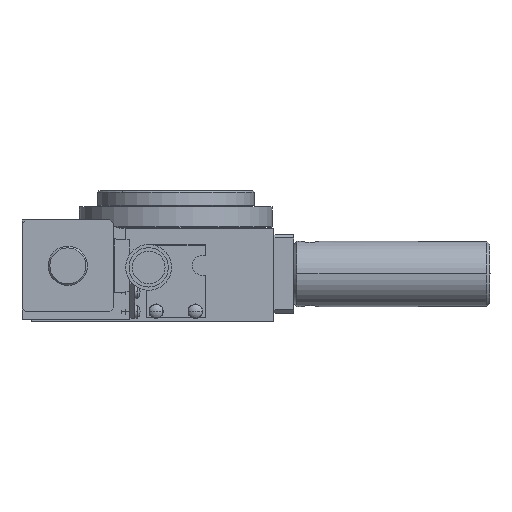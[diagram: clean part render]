
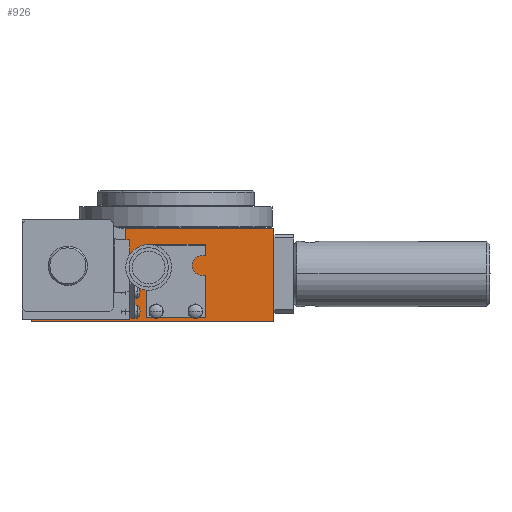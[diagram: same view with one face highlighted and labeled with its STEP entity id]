
A CAD part, left-side view. The second image highlights one B-rep face of the part: STEP entity #926.
In plain terms, the highlighted planar face has unit normal (-1, 0, 0).
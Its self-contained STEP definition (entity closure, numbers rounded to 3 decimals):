
#926=ADVANCED_FACE('',(#1735,#1736,#1737),#1738,.F.);
#1735=FACE_BOUND('',#2928,.T.);
#1736=FACE_OUTER_BOUND('',#2929,.T.);
#1737=FACE_BOUND('',#2930,.T.);
#1738=PLANE('',#2931);
#2928=EDGE_LOOP('',(#5595,#5596,#5597,#5598,#5599,#5600));
#2929=EDGE_LOOP('',(#5601,#5602,#5603,#5604));
#2930=EDGE_LOOP('',(#5605,#5606,#5607,#5608,#5609,#5610));
#2931=AXIS2_PLACEMENT_3D('',#5611,#5612,#5613);
#5595=ORIENTED_EDGE('',*,*,#8692,.F.);
#5596=ORIENTED_EDGE('',*,*,#8693,.F.);
#5597=ORIENTED_EDGE('',*,*,#8694,.F.);
#5598=ORIENTED_EDGE('',*,*,#8695,.F.);
#5599=ORIENTED_EDGE('',*,*,#8696,.F.);
#5600=ORIENTED_EDGE('',*,*,#8697,.F.);
#5601=ORIENTED_EDGE('',*,*,#8698,.T.);
#5602=ORIENTED_EDGE('',*,*,#8699,.F.);
#5603=ORIENTED_EDGE('',*,*,#8700,.F.);
#5604=ORIENTED_EDGE('',*,*,#8701,.T.);
#5605=ORIENTED_EDGE('',*,*,#8702,.F.);
#5606=ORIENTED_EDGE('',*,*,#8689,.F.);
#5607=ORIENTED_EDGE('',*,*,#8703,.F.);
#5608=ORIENTED_EDGE('',*,*,#8704,.F.);
#5609=ORIENTED_EDGE('',*,*,#8705,.F.);
#5610=ORIENTED_EDGE('',*,*,#8706,.F.);
#5611=CARTESIAN_POINT('',(-30.0,44.0,28.5));
#5612=DIRECTION('',(1.0,0.0,0.0));
#5613=DIRECTION('',(0.0,1.0,0.0));
#8689=EDGE_CURVE('',#10455,#10456,#10457,.T.);
#8692=EDGE_CURVE('',#10460,#10461,#10462,.T.);
#8693=EDGE_CURVE('',#10463,#10460,#10464,.T.);
#8694=EDGE_CURVE('',#10465,#10463,#10466,.T.);
#8695=EDGE_CURVE('',#10467,#10465,#10468,.T.);
#8696=EDGE_CURVE('',#10469,#10467,#10470,.T.);
#8697=EDGE_CURVE('',#10461,#10469,#10471,.T.);
#8698=EDGE_CURVE('',#10472,#10473,#10474,.T.);
#8699=EDGE_CURVE('',#10475,#10473,#10476,.T.);
#8700=EDGE_CURVE('',#10477,#10475,#10478,.T.);
#8701=EDGE_CURVE('',#10477,#10472,#10479,.T.);
#8702=EDGE_CURVE('',#10456,#10480,#10481,.T.);
#8703=EDGE_CURVE('',#10482,#10455,#10483,.T.);
#8704=EDGE_CURVE('',#10484,#10482,#10485,.T.);
#8705=EDGE_CURVE('',#10486,#10484,#10487,.T.);
#8706=EDGE_CURVE('',#10480,#10486,#10488,.T.);
#10455=VERTEX_POINT('',#13013);
#10456=VERTEX_POINT('',#13014);
#10457=LINE('',#13015,#13016);
#10460=VERTEX_POINT('',#13021);
#10461=VERTEX_POINT('',#13022);
#10462=LINE('',#13023,#13024);
#10463=VERTEX_POINT('',#13025);
#10464=LINE('',#13026,#13027);
#10465=VERTEX_POINT('',#13028);
#10466=LINE('',#13029,#13030);
#10467=VERTEX_POINT('',#13031);
#10468=LINE('',#13032,#13033);
#10469=VERTEX_POINT('',#13034);
#10470=LINE('',#13035,#13036);
#10471=LINE('',#13037,#13038);
#10472=VERTEX_POINT('',#13039);
#10473=VERTEX_POINT('',#13040);
#10474=LINE('',#13041,#13042);
#10475=VERTEX_POINT('',#13043);
#10476=LINE('',#13044,#13045);
#10477=VERTEX_POINT('',#13046);
#10478=LINE('',#13047,#13048);
#10479=LINE('',#13049,#13050);
#10480=VERTEX_POINT('',#13051);
#10481=LINE('',#13052,#13053);
#10482=VERTEX_POINT('',#13054);
#10483=LINE('',#13055,#13056);
#10484=VERTEX_POINT('',#13057);
#10485=LINE('',#13058,#13059);
#10486=VERTEX_POINT('',#13060);
#10487=LINE('',#13061,#13062);
#10488=LINE('',#13063,#13064);
#13013=CARTESIAN_POINT('',(-30.0,6.0,5.409));
#13014=CARTESIAN_POINT('',(-30.0,8.0,4.255));
#13015=CARTESIAN_POINT('',(-30.0,6.0,5.409));
#13016=VECTOR('',#15991,1000.0);
#13021=CARTESIAN_POINT('',(-30.0,-4.0,4.255));
#13022=CARTESIAN_POINT('',(-30.0,-4.0,1.945));
#13023=CARTESIAN_POINT('',(-30.0,-4.0,4.255));
#13024=VECTOR('',#15994,1000.0);
#13025=CARTESIAN_POINT('',(-30.0,-6.0,5.409));
#13026=CARTESIAN_POINT('',(-30.0,-6.0,5.409));
#13027=VECTOR('',#15995,1000.0);
#13028=CARTESIAN_POINT('',(-30.0,-8.0,4.255));
#13029=CARTESIAN_POINT('',(-30.0,-8.0,4.255));
#13030=VECTOR('',#15996,1000.0);
#13031=CARTESIAN_POINT('',(-30.0,-8.0,1.945));
#13032=CARTESIAN_POINT('',(-30.0,-8.0,1.945));
#13033=VECTOR('',#15997,1000.0);
#13034=CARTESIAN_POINT('',(-30.0,-6.0,0.791));
#13035=CARTESIAN_POINT('',(-30.0,-6.0,0.791));
#13036=VECTOR('',#15998,1000.0);
#13037=CARTESIAN_POINT('',(-30.0,-4.0,1.945));
#13038=VECTOR('',#15999,1000.0);
#13039=CARTESIAN_POINT('',(-30.0,44.0,0.0));
#13040=CARTESIAN_POINT('',(-30.0,-30.0,0.0));
#13041=CARTESIAN_POINT('',(-30.0,44.0,0.0));
#13042=VECTOR('',#16000,1000.0);
#13043=CARTESIAN_POINT('',(-30.0,-30.0,28.5));
#13044=CARTESIAN_POINT('',(-30.0,-30.0,28.5));
#13045=VECTOR('',#16001,1000.0);
#13046=CARTESIAN_POINT('',(-30.0,44.0,28.5));
#13047=CARTESIAN_POINT('',(-30.0,44.0,28.5));
#13048=VECTOR('',#16002,1000.0);
#13049=CARTESIAN_POINT('',(-30.0,44.0,28.5));
#13050=VECTOR('',#16003,1000.0);
#13051=CARTESIAN_POINT('',(-30.0,8.0,1.945));
#13052=CARTESIAN_POINT('',(-30.0,8.0,4.255));
#13053=VECTOR('',#16004,1000.0);
#13054=CARTESIAN_POINT('',(-30.0,4.0,4.255));
#13055=CARTESIAN_POINT('',(-30.0,4.0,4.255));
#13056=VECTOR('',#16005,1000.0);
#13057=CARTESIAN_POINT('',(-30.0,4.0,1.945));
#13058=CARTESIAN_POINT('',(-30.0,4.0,1.945));
#13059=VECTOR('',#16006,1000.0);
#13060=CARTESIAN_POINT('',(-30.0,6.0,0.791));
#13061=CARTESIAN_POINT('',(-30.0,6.0,0.791));
#13062=VECTOR('',#16007,1000.0);
#13063=CARTESIAN_POINT('',(-30.0,8.0,1.945));
#13064=VECTOR('',#16008,1000.0);
#15991=DIRECTION('',(0.0,0.866,-0.5));
#15994=DIRECTION('',(0.0,0.0,-1.0));
#15995=DIRECTION('',(0.0,0.866,-0.5));
#15996=DIRECTION('',(0.0,0.866,0.5));
#15997=DIRECTION('',(0.0,0.0,1.0));
#15998=DIRECTION('',(0.0,-0.866,0.5));
#15999=DIRECTION('',(0.0,-0.866,-0.5));
#16000=DIRECTION('',(0.0,-1.0,0.0));
#16001=DIRECTION('',(0.0,0.0,-1.0));
#16002=DIRECTION('',(0.0,-1.0,0.0));
#16003=DIRECTION('',(0.0,0.0,-1.0));
#16004=DIRECTION('',(0.0,0.0,-1.0));
#16005=DIRECTION('',(0.0,0.866,0.5));
#16006=DIRECTION('',(0.0,0.0,1.0));
#16007=DIRECTION('',(0.0,-0.866,0.5));
#16008=DIRECTION('',(0.0,-0.866,-0.5));
